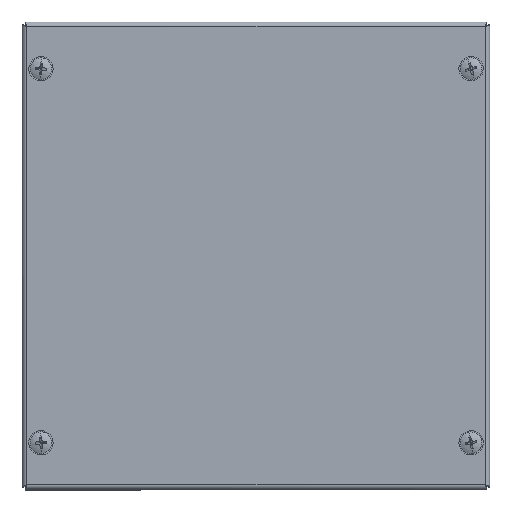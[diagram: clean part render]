
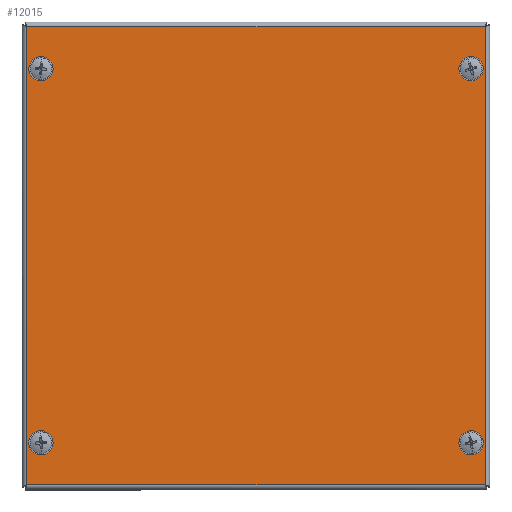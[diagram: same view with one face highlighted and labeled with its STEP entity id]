
A CAD part, top view. The second image highlights one B-rep face of the part: STEP entity #12015.
In plain terms, the highlighted planar face has unit normal (0, 0, 1) as drawn and (0, 0, -1) by its records, which use the part's own axes.
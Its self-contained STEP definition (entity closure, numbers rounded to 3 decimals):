
#52 = CARTESIAN_POINT ( 'NONE',  ( -92., 80., -1.2 ) ) ;
#161 = DIRECTION ( 'NONE',  ( 0., 0., 1. ) ) ;
#244 = ORIENTED_EDGE ( 'NONE', *, *, #388, .T. ) ;
#388 = EDGE_CURVE ( 'NONE', #13320, #8243, #6037, .T. ) ;
#483 = CARTESIAN_POINT ( 'NONE',  ( 98.063, 98.093, -1.2 ) ) ;
#511 = CARTESIAN_POINT ( 'NONE',  ( 88., -80., -1.2 ) ) ;
#532 = CARTESIAN_POINT ( 'NONE',  ( 0., 0., -1.2 ) ) ;
#606 = DIRECTION ( 'NONE',  ( 0., 0., 1. ) ) ;
#685 = LINE ( 'NONE', #3678, #1273 ) ;
#795 = ORIENTED_EDGE ( 'NONE', *, *, #12048, .T. ) ;
#915 = CIRCLE ( 'NONE', #5944, 4. ) ;
#936 = AXIS2_PLACEMENT_3D ( 'NONE', #4036, #606, #2844 ) ;
#1273 = VECTOR ( 'NONE', #9501, 1000. ) ;
#1671 = DIRECTION ( 'NONE',  ( 1., 0., 0. ) ) ;
#2001 = VERTEX_POINT ( 'NONE', #13679 ) ;
#2224 = DIRECTION ( 'NONE',  ( 0., 0., 1. ) ) ;
#2382 = AXIS2_PLACEMENT_3D ( 'NONE', #11629, #3508, #9490 ) ;
#2495 = CARTESIAN_POINT ( 'NONE',  ( 98.093, -98.063, -1.2 ) ) ;
#2844 = DIRECTION ( 'NONE',  ( 1., 0., 0. ) ) ;
#2956 = LINE ( 'NONE', #7628, #8987 ) ;
#3037 = VECTOR ( 'NONE', #14298, 1000. ) ;
#3052 = FACE_BOUND ( 'NONE', #4202, .T. ) ;
#3335 = CARTESIAN_POINT ( 'NONE',  ( 92., 80., -1.2 ) ) ;
#3414 = CARTESIAN_POINT ( 'NONE',  ( -98.063, -98.063, -1.2 ) ) ;
#3508 = DIRECTION ( 'NONE',  ( 0., 0., 1. ) ) ;
#3530 = VERTEX_POINT ( 'NONE', #5295 ) ;
#3555 = EDGE_CURVE ( 'NONE', #6991, #14906, #14455, .T. ) ;
#3620 = CARTESIAN_POINT ( 'NONE',  ( -92., -80., -1.2 ) ) ;
#3678 = CARTESIAN_POINT ( 'NONE',  ( -98.093, 98.063, -1.2 ) ) ;
#3868 = DIRECTION ( 'NONE',  ( 0., 0., 1. ) ) ;
#4000 = AXIS2_PLACEMENT_3D ( 'NONE', #532, #3868, #1671 ) ;
#4036 = CARTESIAN_POINT ( 'NONE',  ( 92., 80., -1.2 ) ) ;
#4094 = CIRCLE ( 'NONE', #6877, 4. ) ;
#4168 = FACE_BOUND ( 'NONE', #10778, .T. ) ;
#4202 = EDGE_LOOP ( 'NONE', ( #6799, #12719 ) ) ;
#4203 = EDGE_CURVE ( 'NONE', #14906, #6991, #4303, .T. ) ;
#4303 = CIRCLE ( 'NONE', #936, 4. ) ;
#4481 = EDGE_CURVE ( 'NONE', #8243, #13320, #4674, .T. ) ;
#4545 = FACE_BOUND ( 'NONE', #12771, .T. ) ;
#4674 = CIRCLE ( 'NONE', #12623, 4. ) ;
#4841 = EDGE_CURVE ( 'NONE', #14908, #3530, #5198, .T. ) ;
#4844 = DIRECTION ( 'NONE',  ( 0., 0., 1. ) ) ;
#4898 = EDGE_CURVE ( 'NONE', #5481, #13586, #685, .T. ) ;
#5198 = CIRCLE ( 'NONE', #8486, 4. ) ;
#5295 = CARTESIAN_POINT ( 'NONE',  ( -88., -80., -1.2 ) ) ;
#5481 = VERTEX_POINT ( 'NONE', #10056 ) ;
#5698 = ORIENTED_EDGE ( 'NONE', *, *, #4898, .T. ) ;
#5775 = CARTESIAN_POINT ( 'NONE',  ( 92., -80., -1.2 ) ) ;
#5944 = AXIS2_PLACEMENT_3D ( 'NONE', #52, #4844, #12787 ) ;
#6006 = FACE_OUTER_BOUND ( 'NONE', #13260, .T. ) ;
#6037 = CIRCLE ( 'NONE', #2382, 4. ) ;
#6405 = PLANE ( 'NONE',  #4000 ) ;
#6476 = ORIENTED_EDGE ( 'NONE', *, *, #7128, .T. ) ;
#6541 = ORIENTED_EDGE ( 'NONE', *, *, #4203, .T. ) ;
#6794 = EDGE_CURVE ( 'NONE', #9790, #12980, #12626, .T. ) ;
#6799 = ORIENTED_EDGE ( 'NONE', *, *, #9590, .T. ) ;
#6877 = AXIS2_PLACEMENT_3D ( 'NONE', #7612, #12199, #8727 ) ;
#6991 = VERTEX_POINT ( 'NONE', #9672 ) ;
#7099 = AXIS2_PLACEMENT_3D ( 'NONE', #3335, #9003, #7991 ) ;
#7128 = EDGE_CURVE ( 'NONE', #3530, #14908, #4094, .T. ) ;
#7532 = AXIS2_PLACEMENT_3D ( 'NONE', #13888, #2224, #9370 ) ;
#7612 = CARTESIAN_POINT ( 'NONE',  ( -92., -80., -1.2 ) ) ;
#7628 = CARTESIAN_POINT ( 'NONE',  ( -98.063, -98.093, -1.2 ) ) ;
#7822 = CARTESIAN_POINT ( 'NONE',  ( 98.063, 98.063, -1.2 ) ) ;
#7991 = DIRECTION ( 'NONE',  ( 1., 0., 0. ) ) ;
#8009 = DIRECTION ( 'NONE',  ( 1., 0., 0. ) ) ;
#8241 = EDGE_CURVE ( 'NONE', #12980, #5481, #2956, .T. ) ;
#8243 = VERTEX_POINT ( 'NONE', #9957 ) ;
#8486 = AXIS2_PLACEMENT_3D ( 'NONE', #3620, #161, #14111 ) ;
#8604 = ORIENTED_EDGE ( 'NONE', *, *, #4841, .T. ) ;
#8727 = DIRECTION ( 'NONE',  ( 1., 0., 0. ) ) ;
#8987 = VECTOR ( 'NONE', #10098, 1000. ) ;
#9003 = DIRECTION ( 'NONE',  ( 0., 0., 1. ) ) ;
#9370 = DIRECTION ( 'NONE',  ( 1., 0., 0. ) ) ;
#9490 = DIRECTION ( 'NONE',  ( 1., 0., 0. ) ) ;
#9501 = DIRECTION ( 'NONE',  ( 1., 0., 0. ) ) ;
#9590 = EDGE_CURVE ( 'NONE', #2001, #13175, #915, .T. ) ;
#9669 = CARTESIAN_POINT ( 'NONE',  ( 98.063, -98.063, -1.2 ) ) ;
#9672 = CARTESIAN_POINT ( 'NONE',  ( 88., 80., -1.2 ) ) ;
#9790 = VERTEX_POINT ( 'NONE', #9669 ) ;
#9957 = CARTESIAN_POINT ( 'NONE',  ( 96., -80., -1.2 ) ) ;
#10056 = CARTESIAN_POINT ( 'NONE',  ( -98.063, 98.063, -1.2 ) ) ;
#10098 = DIRECTION ( 'NONE',  ( 0., 1., 0. ) ) ;
#10354 = CARTESIAN_POINT ( 'NONE',  ( 96., 80., -1.2 ) ) ;
#10484 = ORIENTED_EDGE ( 'NONE', *, *, #8241, .T. ) ;
#10701 = CIRCLE ( 'NONE', #7532, 4. ) ;
#10778 = EDGE_LOOP ( 'NONE', ( #13308, #244 ) ) ;
#11334 = ORIENTED_EDGE ( 'NONE', *, *, #3555, .T. ) ;
#11480 = DIRECTION ( 'NONE',  ( 0., 0., 1. ) ) ;
#11629 = CARTESIAN_POINT ( 'NONE',  ( 92., -80., -1.2 ) ) ;
#11730 = DIRECTION ( 'NONE',  ( -1., 0., 0. ) ) ;
#12015 = ADVANCED_FACE ( 'NONE', ( #13404, #4168, #4545, #3052, #6006 ), #6405, .F. ) ;
#12048 = EDGE_CURVE ( 'NONE', #13586, #9790, #14301, .T. ) ;
#12199 = DIRECTION ( 'NONE',  ( 0., 0., 1. ) ) ;
#12260 = VECTOR ( 'NONE', #11730, 1000. ) ;
#12371 = CARTESIAN_POINT ( 'NONE',  ( -96., 80., -1.2 ) ) ;
#12623 = AXIS2_PLACEMENT_3D ( 'NONE', #5775, #11480, #8009 ) ;
#12626 = LINE ( 'NONE', #2495, #12260 ) ;
#12676 = CARTESIAN_POINT ( 'NONE',  ( -96., -80., -1.2 ) ) ;
#12719 = ORIENTED_EDGE ( 'NONE', *, *, #14967, .T. ) ;
#12771 = EDGE_LOOP ( 'NONE', ( #6541, #11334 ) ) ;
#12787 = DIRECTION ( 'NONE',  ( 1., 0., 0. ) ) ;
#12980 = VERTEX_POINT ( 'NONE', #3414 ) ;
#13175 = VERTEX_POINT ( 'NONE', #12371 ) ;
#13260 = EDGE_LOOP ( 'NONE', ( #10484, #5698, #795, #14003 ) ) ;
#13308 = ORIENTED_EDGE ( 'NONE', *, *, #4481, .T. ) ;
#13320 = VERTEX_POINT ( 'NONE', #511 ) ;
#13404 = FACE_BOUND ( 'NONE', #13851, .T. ) ;
#13586 = VERTEX_POINT ( 'NONE', #7822 ) ;
#13679 = CARTESIAN_POINT ( 'NONE',  ( -88., 80., -1.2 ) ) ;
#13851 = EDGE_LOOP ( 'NONE', ( #6476, #8604 ) ) ;
#13888 = CARTESIAN_POINT ( 'NONE',  ( -92., 80., -1.2 ) ) ;
#14003 = ORIENTED_EDGE ( 'NONE', *, *, #6794, .T. ) ;
#14111 = DIRECTION ( 'NONE',  ( 1., 0., 0. ) ) ;
#14298 = DIRECTION ( 'NONE',  ( 0., -1., 0. ) ) ;
#14301 = LINE ( 'NONE', #483, #3037 ) ;
#14455 = CIRCLE ( 'NONE', #7099, 4. ) ;
#14906 = VERTEX_POINT ( 'NONE', #10354 ) ;
#14908 = VERTEX_POINT ( 'NONE', #12676 ) ;
#14967 = EDGE_CURVE ( 'NONE', #13175, #2001, #10701, .T. ) ;
